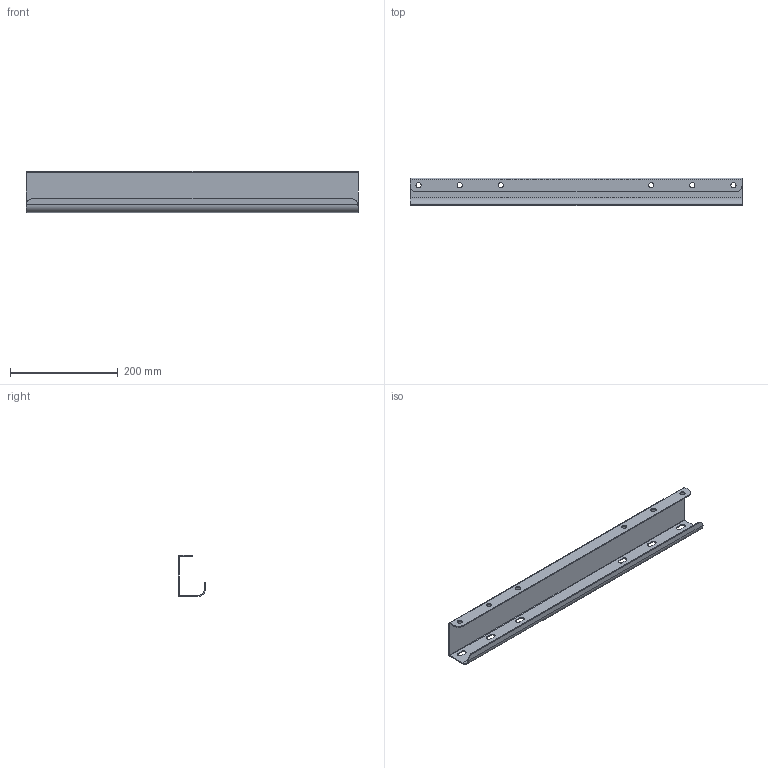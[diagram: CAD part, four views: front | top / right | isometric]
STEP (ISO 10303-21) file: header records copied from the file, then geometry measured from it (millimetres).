
FILE_DESCRIPTION((''),'2;1');
FILE_NAME('C:\Users\KYLEB\Desktop\Cable Management - Cable Troughs and Other Solutions\LRB-24\LRB-24.stp','2011-06-28T09:20:59',('KyleB'),(''),'Autodesk Inventor 2011','Autodesk Inventor 2011','');
FILE_SCHEMA(('AUTOMOTIVE_DESIGN { 1 0 10303 214 1 1 1 1 }'));
Length unit declared in the file: inch
Products named in the file (1): I005930
Bounding box: 615.95 x 50.8 x 76.2 mm (x, y, z)
Volume: 183085.7 mm3; surface area: 203907.6 mm2
Topology: 1 solids, 1 shells, 76 faces, 222 edges, 148 vertices
Faces by surface type: cylinder 40, plane 36
Full cylindrical faces by diameter (mm): 9.525 x6
Entity records: 2600 total; most frequent: CARTESIAN_POINT 457, DIRECTION 446, ORIENTED_EDGE 432, EDGE_CURVE 216, AXIS2_PLACEMENT_3D 157, VERTEX_POINT 148, VECTOR 132, LINE 132
